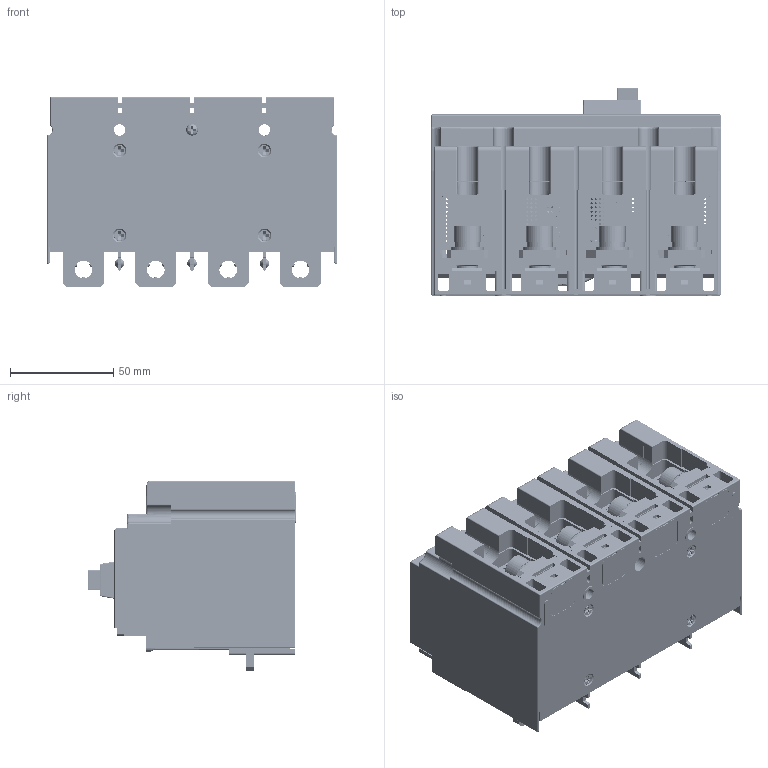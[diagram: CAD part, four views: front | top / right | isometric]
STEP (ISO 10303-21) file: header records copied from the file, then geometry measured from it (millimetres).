
FILE_DESCRIPTION((''),'2;1');
FILE_NAME('6ZTD-229-383-1-4_ASM','2020-07-29T17:34:28',('zhxmin'),(''),'CREO PARAMETRIC BY PTC INC, 2018020','CREO PARAMETRIC BY PTC INC, 2018020','');
FILE_SCHEMA(('CONFIG_CONTROL_DESIGN','SHAPE_APPEARANCE_LAYERS_GROUPS'));
Products named in the file (80): 8ZTD-022-178; 8940M0308103; 8043M0101005; 8300M0101008; 8615M0725002; 8300M0101009; 6179M1526002V1; 6179M1526002V2; 8369M0306002; 8369M0306003; 6179M1526002_ASM; 8043M0101006; 8580M0405006; 8580M0405010; 5519M1526022_ASM; 5519M1526021_ASM; 8580M0405007; 5519M1526023_ASM; 8580M0405008; 5519M1526024_ASM; 8580M0405009; 5519M1526026_ASM; 5519M1526025_ASM; 8580M0406015; 5585M1526002_ASM; 8580M0406012; 5585M1526001_ASM; 8580M0406014; 8580M0406013; GBT860-5; GBT70_1-M5X20; 5519M1526019V1; 5519M1526019V2; 5519M1526019V3; 5519M1526020_ASM; 8043M0101007; 8742M0101009; 8599M1121001; 5599M1121002V1; 5599M1121002V2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
Assembly tree (144 placements, depth 7):
  6ZTD-229-383-1-4_ASM
    8ZTD-022-178
    8940M0308103  x4
    5519M1526020_ASM
      8043M0101005
      6179M1526002_ASM
        8300M0101008
        8615M0725002
        8300M0101009
        6179M1526002V1
        6179M1526002V2
        8369M0306002  x2
        8369M0306003  x22
      8043M0101006
      5519M1526021_ASM
        5519M1526022_ASM
          8580M0405006
          8580M0405010
      5519M1526023_ASM
        8580M0405007
        8580M0405010
      5519M1526024_ASM
        8580M0405008
        8580M0405010
      5519M1526025_ASM
        5519M1526026_ASM
          8580M0405009
          8580M0405010
      5585M1526002_ASM
        8580M0406015
      5585M1526001_ASM
        8580M0406012
      8580M0406014
      8580M0406013
      GBT860-5  x4
      GBT70_1-M5X20  x4
      5519M1526019V1  x4
      5519M1526019V2  x4
      5519M1526019V3  x4
    8043M0101007
    8742M0101009  x4
    5599M11212011-2_ASM
      5599M11210021-2_ASM
        8599M1121001
        5599M1121002V1  x2
        5599M1121002V2
        5599M1121002V3
      5599M1121003_ASM
        8599M1121002
    5ZTD-315-545_ASM
      8ZTD-315-1463
      5ZTD-295-568_ASM
        5ZTD-295-567_ASM
          5295M1526014_ASM
            5050M1526001_ASM
            5235M1526002_ASM
              5235M1501002_ASM
              8206M0312021
            5257M1526007_ASM
            5232M1526006_ASM
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Bounding box: 140 x 101 x 92 mm (x, y, z)
Volume: 315886 mm3; surface area: 393532.2 mm2
Topology: 125 solids, 159 shells, 5925 faces, 15770 edges, 10268 vertices
Faces by surface type: plane 3124, cylinder 2397, torus 175, cone 137, sphere 55, bspline 25, revolution 12
Entity records: 159373 total; most frequent: CARTESIAN_POINT 31794, DIRECTION 20990, ORIENTED_EDGE 20644, EDGE_CURVE 10337, PRESENTATION_STYLE_ASSIGNMENT 8025, STYLED_ITEM 7811, CURVE_STYLE 7748, VECTOR 7306
